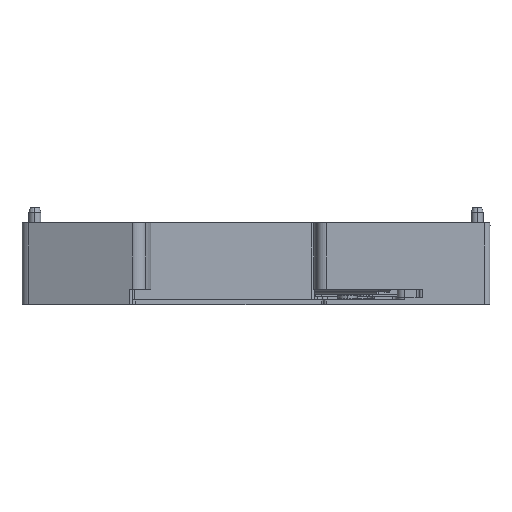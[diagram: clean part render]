
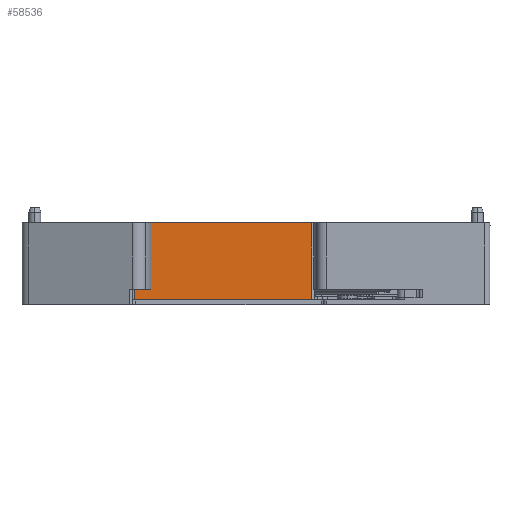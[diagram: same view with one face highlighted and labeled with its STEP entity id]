
A CAD part, front view. The second image highlights one B-rep face of the part: STEP entity #58536.
In plain terms, the highlighted planar face has unit normal (0, -1, 0).
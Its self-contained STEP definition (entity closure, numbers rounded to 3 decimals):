
#251=DIRECTION('',(-1.,0.,0.));
#252=VECTOR('',#251,1.5);
#253=CARTESIAN_POINT('',(23.739,6.,-12.5));
#254=LINE('',#253,#252);
#430=DIRECTION('',(0.,0.,-1.));
#431=VECTOR('',#430,2.);
#432=CARTESIAN_POINT('',(22.239,6.,-12.5));
#433=LINE('',#432,#431);
#10533=DIRECTION('',(1.,0.,0.));
#10534=VECTOR('',#10533,34.653);
#10535=CARTESIAN_POINT('',(22.239,6.,
-14.5));
#10536=LINE('',#10535,#10534);
#10551=DIRECTION('',(1.,0.,0.));
#10552=VECTOR('',#10551,33.153);
#10553=CARTESIAN_POINT('',(23.739,6.,
0.5));
#10554=LINE('',#10553,#10552);
#10555=DIRECTION('',(0.,0.,1.));
#10556=VECTOR('',#10555,13.);
#10557=CARTESIAN_POINT('',(23.739,6.,
-12.5));
#10558=LINE('',#10557,#10556);
#21421=DIRECTION('',(0.,0.,1.));
#21422=VECTOR('',#21421,15.);
#21423=CARTESIAN_POINT('',(56.892,6.,
-14.5));
#21424=LINE('',#21423,#21422);
#35545=CARTESIAN_POINT('',(23.739,6.,
-12.5));
#35546=VERTEX_POINT('',#35545);
#35547=CARTESIAN_POINT('',(22.239,6.,
-12.5));
#35548=VERTEX_POINT('',#35547);
#35659=CARTESIAN_POINT('',(22.239,6.,
-14.5));
#35660=VERTEX_POINT('',#35659);
#38552=CARTESIAN_POINT('',(56.892,6.,
-14.5));
#38553=VERTEX_POINT('',#38552);
#38556=CARTESIAN_POINT('',(23.739,6.,
0.5));
#38557=CARTESIAN_POINT('',(56.892,6.,
0.5));
#38558=VERTEX_POINT('',#38556);
#38559=VERTEX_POINT('',#38557);
#58520=CARTESIAN_POINT('',(21.373,6.,
-14.875));
#58521=DIRECTION('',(0.,-1.,0.));
#58522=DIRECTION('',(-1.,0.,0.));
#58523=AXIS2_PLACEMENT_3D('',#58520,#58521,#58522);
#58524=PLANE('',#58523);
#58526=ORIENTED_EDGE('',*,*,#58525,.T.);
#58528=ORIENTED_EDGE('',*,*,#58527,.F.);
#58529=ORIENTED_EDGE('',*,*,#58509,.F.);
#58530=ORIENTED_EDGE('',*,*,#44589,.F.);
#58531=ORIENTED_EDGE('',*,*,#44344,.F.);
#58533=ORIENTED_EDGE('',*,*,#58532,.T.);
#58534=EDGE_LOOP('',(#58526,#58528,#58529,#58530,#58531,#58533));
#58535=FACE_OUTER_BOUND('',#58534,.F.);
#58536=ADVANCED_FACE('',(#58535),#58524,.T.);
#44344=EDGE_CURVE('',#35546,#35548,#254,.T.);
#44589=EDGE_CURVE('',#35548,#35660,#433,.T.);
#58509=EDGE_CURVE('',#35660,#38553,#10536,.T.);
#58525=EDGE_CURVE('',#38558,#38559,#10554,.T.);
#58527=EDGE_CURVE('',#38553,#38559,#21424,.T.);
#58532=EDGE_CURVE('',#35546,#38558,#10558,.T.);
